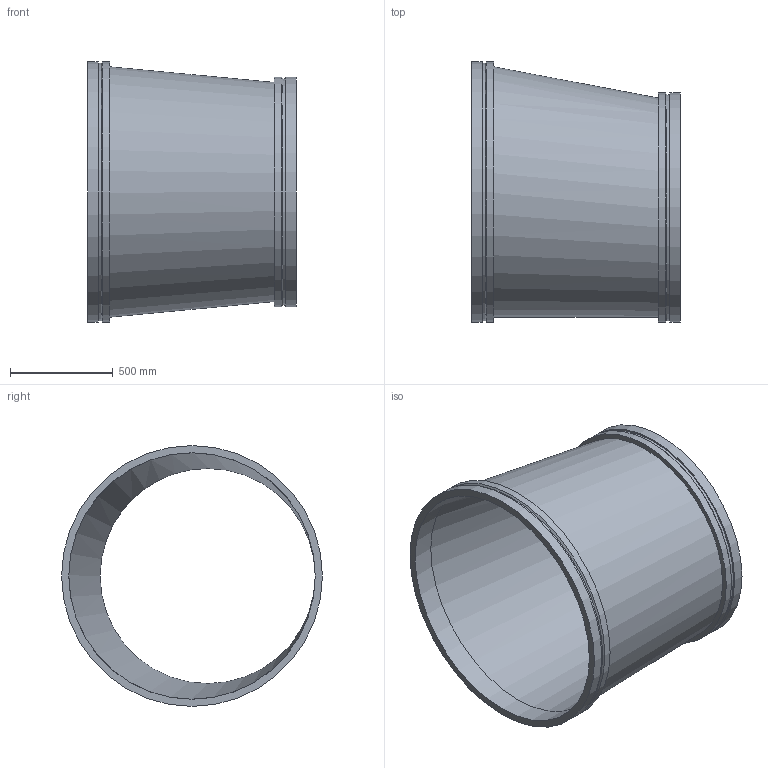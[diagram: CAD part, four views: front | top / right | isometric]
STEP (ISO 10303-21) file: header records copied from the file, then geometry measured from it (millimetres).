
FILE_DESCRIPTION(/* description */ ('VIC REDUCER ECCENTRIC No W51-VR','CAx-IF Rec.Pracs.---Representation and Presentation of Product Manufacturing Information (PMI)---4.0---2014-10-13'),/* implementation_level */ '2;1');
FILE_NAME(/* name */ 'C:\Users\kkamble\AppData\Roaming\Autodesk\ApplicationPlugins\Back Up\Victaulic_Vic-Ring_Reducer Eccentric_No W51 VR (AGR)\Victaulic_Vic-Ring_Reducer Eccentric_No W51 VR (AGR)_48.0x42.0 (1200x1050).stp',/* time_stamp */ '2020-09-10T11:51:37+05:00',/* author */ ('CONSTRUCTION PIPING SERVICES'),/* organization */ ('Victaulic'),/* preprocessor_version */ 'ST-DEVELOPER v17.2',/* originating_system */ 'Autodesk Inventor 2019',/* authorisation */ '');
FILE_SCHEMA (('AP242_MANAGED_MODEL_BASED_3D_ENGINEERING_MIM_LF { 1 0 10303 442 1 1 4 }'));
Length unit declared in the file: inch
Products named in the file (1): W51 VR-48.0x42.0
Bounding box: 1016 x 1270 x 1270 mm (x, y, z)
Volume: 53616272.1 mm3; surface area: 7834590.4 mm2
Topology: 1 solids, 1 shells, 18 faces, 49 edges, 37 vertices
Faces by surface type: cylinder 8, plane 6, cone 2, bspline 2
Full cylindrical faces by diameter (mm): 1047.75 x1, 1101.725 x1, 1117.6 x2, 1200.15 x1, 1254.125 x1, 1270 x2
Entity records: 792 total; most frequent: CARTESIAN_POINT 158, DIRECTION 144, ORIENTED_EDGE 98, AXIS2_PLACEMENT_3D 67, EDGE_CURVE 49, CIRCLE 37, VERTEX_POINT 37, EDGE_LOOP 24
